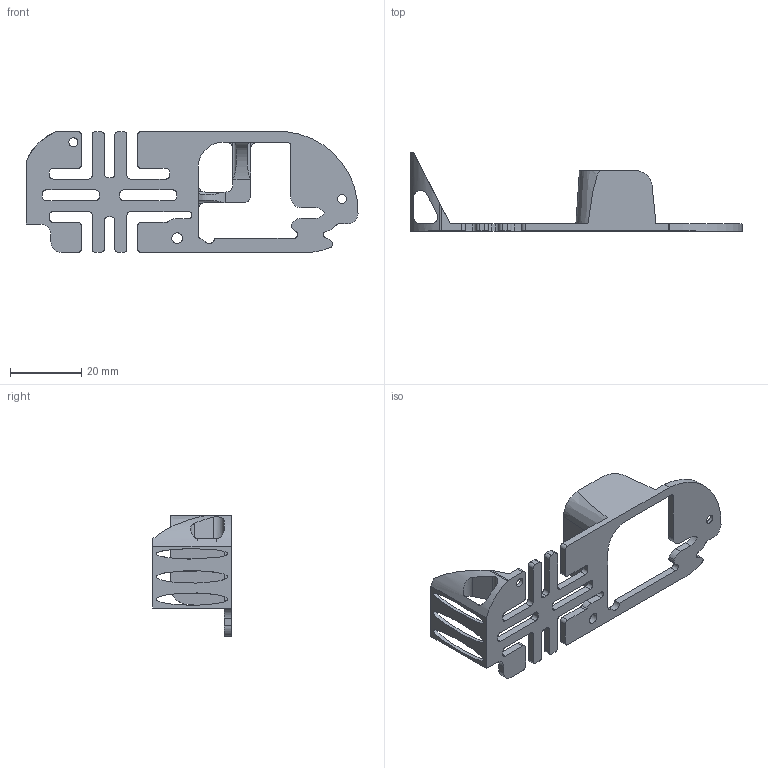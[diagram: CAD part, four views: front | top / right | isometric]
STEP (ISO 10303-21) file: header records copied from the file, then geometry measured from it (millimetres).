
FILE_DESCRIPTION(/* description */ ('STEP AP242','CAx-IF Rec.Pracs.---Representation and Presentation of Product Manufacturing Information (PMI)---4.0---2014-10-13','CAx-IF Rec.Pracs.---3D Tessellated Geometry---0.4---2014-09-14','2;1'),/* implementation_level */ '2;1');
FILE_NAME(/* name */ '686616eae4c0e659911524fc',/* time_stamp */ '2025-07-03T05:36:43Z',/* author */ (''),/* organization */ (''),/* preprocessor_version */ 'ST-DEVELOPER v20',/* originating_system */ 'ONSHAPE BY PTC INC, 1.200',/* authorisation */ ' ');
FILE_SCHEMA (('AP242_MANAGED_MODEL_BASED_3D_ENGINEERING_MIM_LF { 1 0 10303 442 1 1 4 }'));
Length unit declared in the file: metre
Products named in the file (1): Part 1
Bounding box: 93.37 x 22 x 34 mm (x, y, z)
Volume: 5718.1 mm3; surface area: 7357.2 mm2
Topology: 1 solids, 1 shells, 181 faces, 536 edges, 352 vertices
Faces by surface type: cylinder 91, plane 84, bspline 5, cone 1
Full cylindrical faces by diameter (mm): 2.5 x2, 3 x1, 5.5 x1
Entity records: 6264 total; most frequent: CARTESIAN_POINT 1318, ORIENTED_EDGE 1046, DIRECTION 1033, EDGE_CURVE 523, AXIS2_PLACEMENT_3D 356, VERTEX_POINT 346, LINE 321, VECTOR 321
